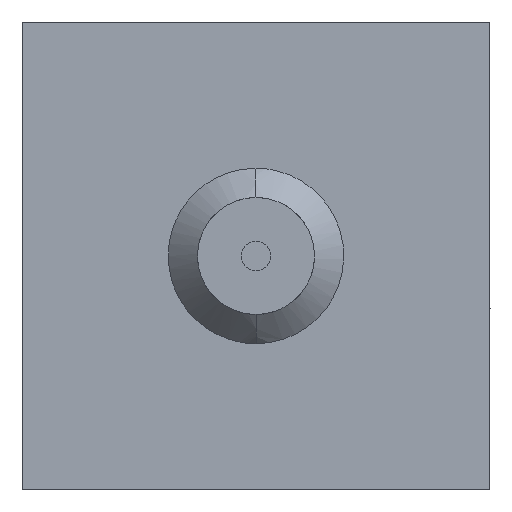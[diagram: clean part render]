
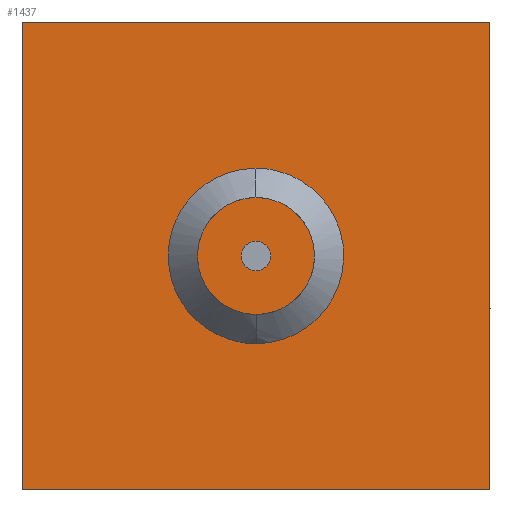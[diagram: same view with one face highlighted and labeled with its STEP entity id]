
A CAD part, front view. The second image highlights one B-rep face of the part: STEP entity #1437.
In plain terms, the highlighted planar face has unit normal (0, -1, 0).
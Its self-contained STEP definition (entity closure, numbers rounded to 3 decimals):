
#33 = EDGE_LOOP ( 'NONE', ( #1127, #1181 ) ) ;
#132 = CIRCLE ( 'NONE', #775, 2.5 ) ;
#153 = LINE ( 'NONE', #1421, #867 ) ;
#172 = CARTESIAN_POINT ( 'NONE',  ( -69.066, 30.863, -40. ) ) ;
#202 = CARTESIAN_POINT ( 'NONE',  ( 10.934, 30.863, -40. ) ) ;
#218 = ORIENTED_EDGE ( 'NONE', *, *, #1042, .F. ) ;
#289 = EDGE_CURVE ( 'NONE', #696, #914, #307, .T. ) ;
#295 = VERTEX_POINT ( 'NONE', #1580 ) ;
#307 = LINE ( 'NONE', #1099, #1031 ) ;
#337 = DIRECTION ( 'NONE',  ( 1., 0., 0. ) ) ;
#339 = EDGE_CURVE ( 'NONE', #1254, #295, #132, .T. ) ;
#486 = EDGE_CURVE ( 'NONE', #295, #1254, #911, .T. ) ;
#514 = CARTESIAN_POINT ( 'NONE',  ( -69.066, 30.863, -40. ) ) ;
#515 = EDGE_LOOP ( 'NONE', ( #218, #986, #1551, #1187 ) ) ;
#529 = VECTOR ( 'NONE', #561, 1000. ) ;
#561 = DIRECTION ( 'NONE',  ( 0., 0., 1. ) ) ;
#570 = FACE_OUTER_BOUND ( 'NONE', #515, .T. ) ;
#696 = VERTEX_POINT ( 'NONE', #1153 ) ;
#709 = DIRECTION ( 'NONE',  ( 0., 0., -1. ) ) ;
#772 = FACE_BOUND ( 'NONE', #33, .T. ) ;
#773 = CARTESIAN_POINT ( 'NONE',  ( -29.066, 30.863, 0. ) ) ;
#775 = AXIS2_PLACEMENT_3D ( 'NONE', #1602, #1607, #1236 ) ;
#780 = VECTOR ( 'NONE', #1158, 1000. ) ;
#788 = DIRECTION ( 'NONE',  ( 0., 0., -1. ) ) ;
#836 = EDGE_CURVE ( 'NONE', #1176, #1223, #1547, .T. ) ;
#867 = VECTOR ( 'NONE', #788, 1000. ) ;
#911 = CIRCLE ( 'NONE', #1459, 2.5 ) ;
#914 = VERTEX_POINT ( 'NONE', #1505 ) ;
#932 = AXIS2_PLACEMENT_3D ( 'NONE', #202, #1567, #709 ) ;
#944 = CARTESIAN_POINT ( 'NONE',  ( -69.066, 30.863, 40. ) ) ;
#970 = LINE ( 'NONE', #944, #529 ) ;
#986 = ORIENTED_EDGE ( 'NONE', *, *, #289, .F. ) ;
#1016 = CARTESIAN_POINT ( 'NONE',  ( 10.934, 30.863, -40. ) ) ;
#1031 = VECTOR ( 'NONE', #337, 1000. ) ;
#1032 = DIRECTION ( 'NONE',  ( 0., 1., 0. ) ) ;
#1042 = EDGE_CURVE ( 'NONE', #914, #1176, #153, .T. ) ;
#1077 = PLANE ( 'NONE',  #932 ) ;
#1099 = CARTESIAN_POINT ( 'NONE',  ( -69.066, 30.863, 40. ) ) ;
#1127 = ORIENTED_EDGE ( 'NONE', *, *, #339, .T. ) ;
#1153 = CARTESIAN_POINT ( 'NONE',  ( -69.066, 30.863, 40. ) ) ;
#1158 = DIRECTION ( 'NONE',  ( -1., 0., 0. ) ) ;
#1176 = VERTEX_POINT ( 'NONE', #1016 ) ;
#1181 = ORIENTED_EDGE ( 'NONE', *, *, #486, .T. ) ;
#1187 = ORIENTED_EDGE ( 'NONE', *, *, #836, .F. ) ;
#1223 = VERTEX_POINT ( 'NONE', #172 ) ;
#1236 = DIRECTION ( 'NONE',  ( 0., 0., 1. ) ) ;
#1254 = VERTEX_POINT ( 'NONE', #1430 ) ;
#1269 = EDGE_CURVE ( 'NONE', #1223, #696, #970, .T. ) ;
#1280 = DIRECTION ( 'NONE',  ( 0., 0., 1. ) ) ;
#1421 = CARTESIAN_POINT ( 'NONE',  ( 10.934, 30.863, 40. ) ) ;
#1430 = CARTESIAN_POINT ( 'NONE',  ( -29.066, 30.863, -2.5 ) ) ;
#1437 = ADVANCED_FACE ( 'NONE', ( #570, #772 ), #1077, .T. ) ;
#1459 = AXIS2_PLACEMENT_3D ( 'NONE', #773, #1032, #1280 ) ;
#1505 = CARTESIAN_POINT ( 'NONE',  ( 10.934, 30.863, 40. ) ) ;
#1547 = LINE ( 'NONE', #514, #780 ) ;
#1551 = ORIENTED_EDGE ( 'NONE', *, *, #1269, .F. ) ;
#1567 = DIRECTION ( 'NONE',  ( 0., -1., 0. ) ) ;
#1580 = CARTESIAN_POINT ( 'NONE',  ( -29.066, 30.863, 2.5 ) ) ;
#1602 = CARTESIAN_POINT ( 'NONE',  ( -29.066, 30.863, 0. ) ) ;
#1607 = DIRECTION ( 'NONE',  ( 0., 1., 0. ) ) ;
